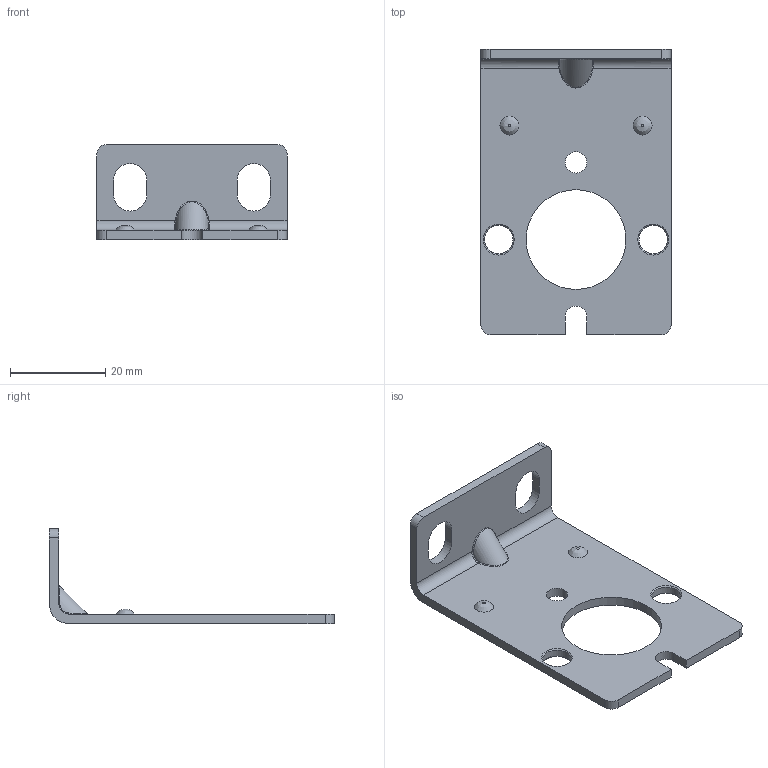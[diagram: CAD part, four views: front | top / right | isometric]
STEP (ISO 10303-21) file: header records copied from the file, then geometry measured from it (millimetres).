
FILE_DESCRIPTION((''),'2;1');
FILE_NAME('U:\AirCom-Produktdokumentation\Winkel\Zeichnungen\CAD-Aircom\3D\B-BW00-46.stp','2016-02-04T10:03:20',('Frank Schroers'),(''),'Autodesk Inventor 2008','Autodesk Inventor 2008','');
FILE_SCHEMA(('AUTOMOTIVE_DESIGN { 1 0 10303 214 1 1 1 1 }'));
Length unit declared in the file: millimetre
Products named in the file (1): B-BW00-46
Bounding box: 40 x 60 x 20 mm (x, y, z)
Volume: 5091.4 mm3; surface area: 5842.5 mm2
Topology: 1 solids, 1 shells, 48 faces, 120 edges, 78 vertices
Faces by surface type: plane 19, cylinder 17, bspline 6, cone 6
Full cylindrical faces by diameter (mm): 4.5 x1, 6 x2, 21 x1
Entity records: 1862 total; most frequent: CARTESIAN_POINT 703, DIRECTION 238, ORIENTED_EDGE 212, EDGE_CURVE 106, AXIS2_PLACEMENT_3D 93, VERTEX_POINT 76, EDGE_LOOP 76, VECTOR 52
